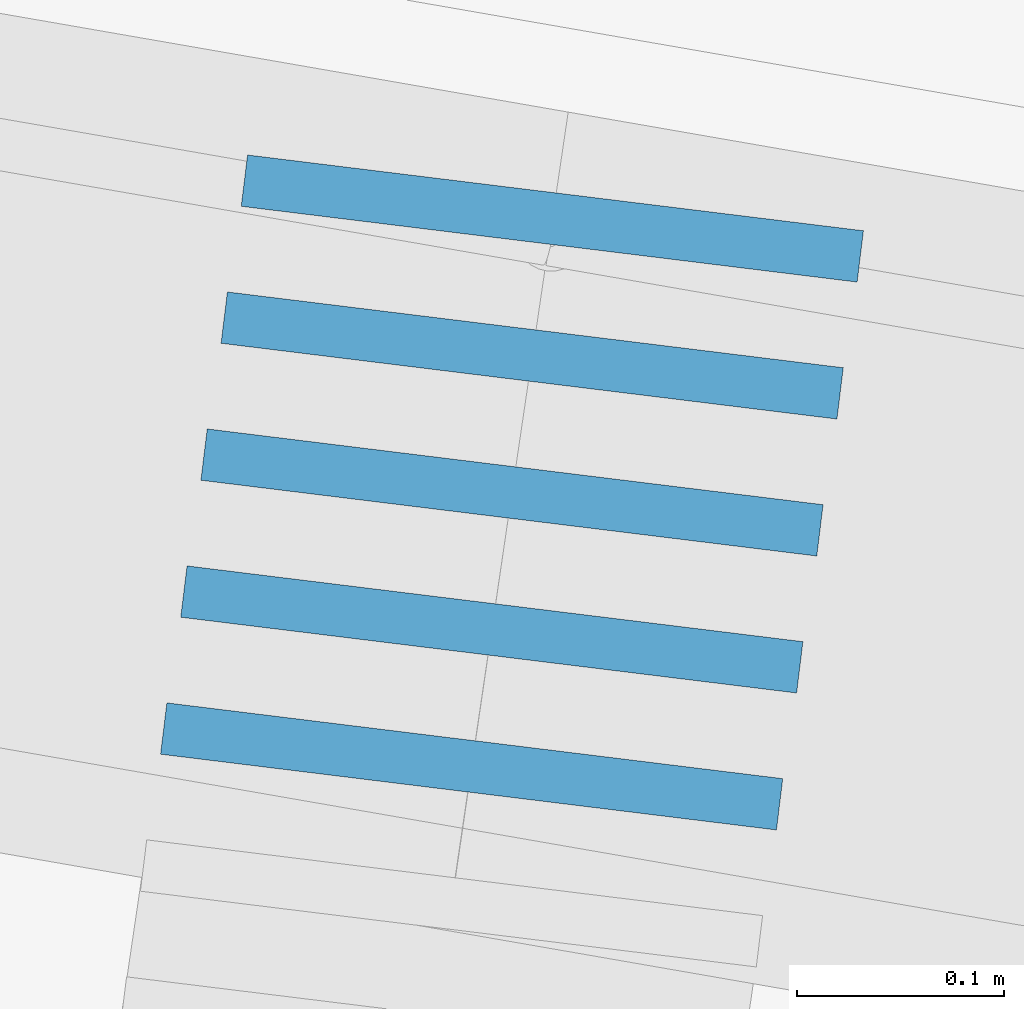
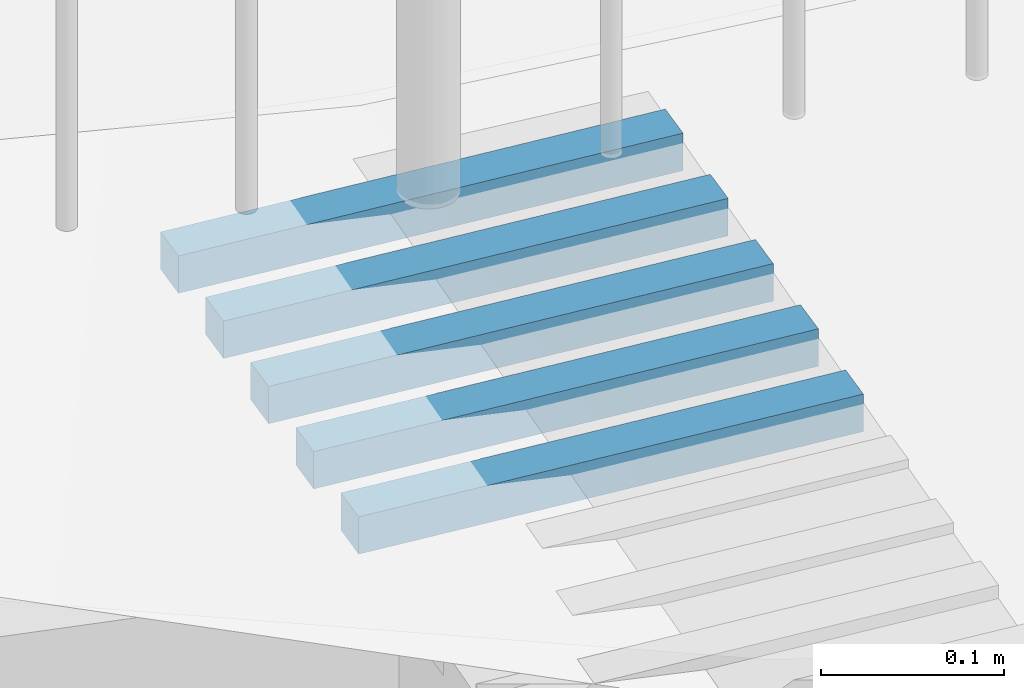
# Not in any storey, part 3 of 45: 5 members.
"""IFC4 model written with IfcOpenShell, lengths in metres."""

import ifcopenshell
import ifcopenshell.guid

model = None  # the IFC model being written
_history = None  # IfcOwnerHistory: only IFC2X3 demands one
_inside = {}  # id of a spatial element -> (the spatial element, [elements in it])
_under = {}  # id of a project, library or spatial element -> (it, [spatial elements below it])
_declared = {}  # id of a project -> (the project, [libraries it declares])
_typed = {}  # id of a type object -> (the type object, [elements of that type])
_made_of = {}  # id of a material, layer set ... -> (it, [elements and type objects made of it])


def new_model(schema):
    """Start an empty IFC model of exactly this schema.

    Asked for "IFC4X3", IfcOpenShell would pick the latest addendum, in which some entities
    have other attributes; the version numbers below select the first issue.
    IFC2X3 requires an IfcOwnerHistory on every rooted entity: one is made here for all.
    """
    global model, _history
    if schema == "IFC4X3":
        model = ifcopenshell.file(schema_version=(4, 3, 0, 0))
    else:
        model = ifcopenshell.file(schema=schema)
    _inside.clear()
    _under.clear()
    _declared.clear()
    _typed.clear()
    _made_of.clear()
    _history = None
    if model.schema == "IFC2X3":
        org = make("IfcOrganization", Name="unknown")
        user = make(
            "IfcPersonAndOrganization",
            ThePerson=make("IfcPerson", FamilyName="unknown"),
            TheOrganization=org,
        )
        app = make(
            "IfcApplication",
            ApplicationDeveloper=org,
            Version="unknown",
            ApplicationFullName="unknown",
            ApplicationIdentifier="unknown",
        )
        _history = make(
            "IfcOwnerHistory",
            OwningUser=user,
            OwningApplication=app,
            ChangeAction="ADDED",
            CreationDate=0,
        )
    return model


def make(cls, **values):
    """One entity of the class cls with the attributes given. An attribute that is None is left unset."""
    return model.create_entity(
        cls, **{name: value for name, value in values.items() if value is not None}
    )


def rooted(cls, **values):
    """An entity with a GlobalId (a new one), such as an element, a storey or a relation."""
    return make(cls, GlobalId=ifcopenshell.guid.new(), OwnerHistory=_history, **values)


def si_unit(unit_type, name, prefix=None):
    """IfcSIUnit, for example si_unit("LENGTHUNIT", "METRE", prefix="MILLI")."""
    return make("IfcSIUnit", UnitType=unit_type, Prefix=prefix, Name=name)


def assignment(units):
    """IfcUnitAssignment: the units of a project."""
    return None if units is None else make("IfcUnitAssignment", Units=units)


def point(xyz):
    """IfcCartesianPoint."""
    return None if xyz is None else make("IfcCartesianPoint", Coordinates=xyz)


def direction(xyz):
    """IfcDirection."""
    return None if xyz is None else make("IfcDirection", DirectionRatios=xyz)


def frame(location, z_axis=None, x_axis=None):
    """IfcAxis2Placement3D, a coordinate frame: its origin and axes. An axis left out is left unset."""
    return make(
        "IfcAxis2Placement3D",
        Location=point(location),
        Axis=direction(z_axis),
        RefDirection=direction(x_axis),
    )


def origin_with_axes():
    """The frame at (0, 0, 0) with the z axis (0, 0, 1) and the x axis (1, 0, 0) written out."""
    return frame((0.0, 0.0, 0.0), z_axis=(0.0, 0.0, 1.0), x_axis=(1.0, 0.0, 0.0))


def place(relative_to, where):
    """IfcLocalPlacement: puts the frame where relative to a parent placement (None: the world)."""
    return make(
        "IfcLocalPlacement", PlacementRelTo=relative_to, RelativePlacement=where
    )


def context(
    kind, dimensions, precision=None, world=None, true_north=None, identifier=None
):
    """IfcGeometricRepresentationContext, for example the 3D "Model" context."""
    return make(
        "IfcGeometricRepresentationContext",
        ContextIdentifier=identifier,
        ContextType=kind,
        CoordinateSpaceDimension=dimensions,
        Precision=precision,
        WorldCoordinateSystem=world,
        TrueNorth=true_north,
    )


def subcontext(parent, identifier, kind, view, scale=None):
    """IfcGeometricRepresentationSubContext, for example "Body" below "Model"."""
    return make(
        "IfcGeometricRepresentationSubContext",
        ContextIdentifier=identifier,
        ContextType=kind,
        ParentContext=parent,
        TargetScale=scale,
        TargetView=view,
    )


def project(units=None, contexts=None):
    """IfcProject with its units and contexts."""
    return rooted(
        "IfcProject",
        Name="project",
        RepresentationContexts=contexts,
        UnitsInContext=assignment(units),
    )


def spatial(cls, under=None, at=None, **own):
    """A site, building, storey or space (cls), placed at a placement, below another one or the project."""
    s = rooted(cls, ObjectPlacement=at, **own)
    if under is not None:
        _under.setdefault(under.id(), (under, []))[1].append(s)
    return s


def profile(cls, at=None, kind="AREA", **sizes):
    """A parametric profile (cls). Its sizes go by their IFC names, for example OverallWidth=200.0."""
    return make(cls, ProfileType=kind, Position=at, **sizes)


def rectangle(**sizes):
    """IfcRectangleProfileDef."""
    return profile("IfcRectangleProfileDef", **sizes)


def extrude(swept, where, along, depth):
    """IfcExtrudedAreaSolid: the profile swept, set in the frame where, extruded along a direction by depth."""
    return make(
        "IfcExtrudedAreaSolid",
        SweptArea=swept,
        Position=where,
        ExtrudedDirection=direction(along),
        Depth=depth,
    )


def shape(context_of_items, identifier, shape_type, items):
    """IfcShapeRepresentation: the items that make up one representation, for example the "Body"."""
    return make(
        "IfcShapeRepresentation",
        ContextOfItems=context_of_items,
        RepresentationIdentifier=identifier,
        RepresentationType=shape_type,
        Items=items,
    )


def material(Name=None, Category=None):
    """IfcMaterial."""
    return make("IfcMaterial", Name=Name, Category=Category)


def material_profile(
    of_material, cross_section, Name=None, Category=None, Priority=None
):
    """IfcMaterialProfile: a cross section and its material."""
    return make(
        "IfcMaterialProfile",
        Name=Name,
        Material=of_material,
        Profile=cross_section,
        Priority=Priority,
        Category=Category,
    )


def profile_set(profiles, Name=None, composite=None):
    """IfcMaterialProfileSet."""
    return make(
        "IfcMaterialProfileSet",
        Name=Name,
        MaterialProfiles=profiles,
        CompositeProfile=composite,
    )


def profile_usage(for_profile_set, cardinal=None, extent=None):
    """IfcMaterialProfileSetUsage: how a profile set lies along its element."""
    return make(
        "IfcMaterialProfileSetUsage",
        ForProfileSet=for_profile_set,
        CardinalPoint=cardinal,
        ReferenceExtent=extent,
    )


def made_of(thing, what):
    """Note that an element or type object is made of a material, layer set ...; save() writes the relation."""
    if what is not None:
        _made_of.setdefault(what.id(), (what, []))[1].append(thing)
    return thing


def type_object(cls, material=None, **own):
    """A type object (cls), such as IfcWallType, which elements share."""
    return made_of(rooted(cls, **own), material)


def element(
    cls,
    number,
    at=None,
    inside=None,
    cuts=None,
    type_object=None,
    material=None,
    context=None,
    identifier="Body",
    shape_type=None,
    held_by="IfcProductDefinitionShape",
    body=None,
    shapes=None,
    **own,
):
    """One element of the class cls, such as IfcWall. Its Tag is "e" and its number.

    at: its placement. inside: the storey or other place that contains it. cuts: it is an
    opening in that element (IfcRelVoidsElement). A single representation is given by context,
    identifier, shape_type and body (its items); several are given by shapes. held_by: the class
    of the entity that holds the representations. save() writes the other relations.
    """
    e = rooted(cls, Tag="e%d" % number, ObjectPlacement=at, **own)
    if body is not None:
        shapes = [shape(context, identifier, shape_type, body)]
    if shapes is not None:
        e.Representation = make(held_by, Representations=shapes)
    if inside is not None:
        _inside.setdefault(inside.id(), (inside, []))[1].append(e)
    if cuts is not None:
        rooted(
            "IfcRelVoidsElement", RelatingBuildingElement=cuts, RelatedOpeningElement=e
        )
    if type_object is not None:
        _typed.setdefault(type_object.id(), (type_object, []))[1].append(e)
    return made_of(e, material)


def aggregate(whole, parts):
    """IfcRelAggregates: a whole, such as a stair, and the parts it consists of."""
    return rooted("IfcRelAggregates", RelatingObject=whole, RelatedObjects=parts)


def save(model, path):
    """Write the relations noted so far, then the file.

    IfcRelAggregates (storeys below a building ...), IfcRelContainedInSpatialStructure (elements
    in a storey), IfcRelDefinesByType, IfcRelAssociatesMaterial and IfcRelDeclares: one each for
    every whole, place, type object, material and project.
    """
    for whole, parts in _under.values():
        aggregate(whole, parts)
    for where, things in _inside.values():
        rooted(
            "IfcRelContainedInSpatialStructure",
            RelatedElements=things,
            RelatingStructure=where,
        )
    for kind, things in _typed.values():
        rooted("IfcRelDefinesByType", RelatedObjects=things, RelatingType=kind)
    for what, things in _made_of.values():
        rooted("IfcRelAssociatesMaterial", RelatedObjects=things, RelatingMaterial=what)
    for by, libraries in _declared.values():
        rooted("IfcRelDeclares", RelatingContext=by, RelatedDefinitions=libraries)
    model.write(path)


model = new_model("IFC4")

# Units and contexts
model_context = context("Model", 3, precision=1e-05, world=origin_with_axes(), true_north=direction((0.0, 1.0)))
body_context = subcontext(model_context, "Body", "Model", "MODEL_VIEW")
ifc_project = project(units=[si_unit("VOLUMEUNIT", "CUBIC_METRE"), si_unit("LENGTHUNIT", "METRE"), si_unit("AREAUNIT", "SQUARE_METRE")], contexts=[model_context])

# Site
site_placement = place(None, origin_with_axes())
site = spatial("IfcSite", under=ifc_project, at=site_placement, Name="Lares · Rua das Mercês · artigo 4771")

# Members
ifc_material = material(Name="Aço galvanizado / Stahl verzinkt", Category="steel")
ifc_material_profile = material_profile(ifc_material, rectangle(XDim=0.025, YDim=0.025))
ifc_profile_set = profile_set([ifc_material_profile], Name="R0.025")
ifc_profile_usage_1 = profile_usage(ifc_profile_set)
member_type = type_object("IfcMemberType", Name="R0.025 / galvanized", PredefinedType="NOTDEFINED", material=ifc_profile_set)
member_1_placement = place(site_placement, frame((49.6684197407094, 11.02953917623, 15.4829738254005), z_axis=(0.992517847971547, -0.12209963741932, 0.0), x_axis=(-0.12209963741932, -0.992517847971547, 0.0)))
element("IfcMember", 1, at=member_1_placement, inside=site, type_object=member_type, material=ifc_profile_usage_1, Name="Interceção · grelha estacionamento", context=body_context, shape_type="SweptSolid", body=[
    extrude(rectangle(XDim=0.025, YDim=0.025), origin_with_axes(), (0.0, 0.0, 1.0), 0.300000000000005),
])
ifc_profile_usage_2 = profile_usage(ifc_profile_set)
member_2_placement = place(site_placement, frame((49.6781709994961, 11.0957623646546, 15.4829738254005), z_axis=(0.992517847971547, -0.12209963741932, 0.0), x_axis=(-0.12209963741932, -0.992517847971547, 0.0)))
element("IfcMember", 2, at=member_2_placement, inside=site, type_object=member_type, material=ifc_profile_usage_2, Name="Interceção · grelha estacionamento", context=body_context, shape_type="SweptSolid", body=[
    extrude(rectangle(XDim=0.025, YDim=0.025), origin_with_axes(), (0.0, 0.0, 1.0), 0.300000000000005),
])
ifc_profile_usage_3 = profile_usage(ifc_profile_set)
member_3_placement = place(site_placement, frame((49.687922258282, 11.1619855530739, 15.4829738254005), z_axis=(0.992517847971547, -0.12209963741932, 0.0), x_axis=(-0.12209963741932, -0.992517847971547, 0.0)))
element("IfcMember", 3, at=member_3_placement, inside=site, type_object=member_type, material=ifc_profile_usage_3, Name="Interceção · grelha estacionamento", context=body_context, shape_type="SweptSolid", body=[
    extrude(rectangle(XDim=0.025, YDim=0.025), origin_with_axes(), (0.0, 0.0, 1.0), 0.300000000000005),
])
ifc_profile_usage_4 = profile_usage(ifc_profile_set)
member_4_placement = place(site_placement, frame((49.697673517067, 11.2282087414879, 15.4829738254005), z_axis=(0.992517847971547, -0.12209963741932, 0.0), x_axis=(-0.12209963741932, -0.992517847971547, 0.0)))
element("IfcMember", 4, at=member_4_placement, inside=site, type_object=member_type, material=ifc_profile_usage_4, Name="Interceção · grelha estacionamento", context=body_context, shape_type="SweptSolid", body=[
    extrude(rectangle(XDim=0.025, YDim=0.025), origin_with_axes(), (0.0, 0.0, 1.0), 0.300000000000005),
])
ifc_profile_usage_5 = profile_usage(ifc_profile_set)
member_5_placement = place(site_placement, frame((49.7074247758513, 11.2944319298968, 15.4829738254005), z_axis=(0.992517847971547, -0.12209963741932, 0.0), x_axis=(-0.12209963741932, -0.992517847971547, 0.0)))
element("IfcMember", 5, at=member_5_placement, inside=site, type_object=member_type, material=ifc_profile_usage_5, Name="Interceção · grelha estacionamento", context=body_context, shape_type="SweptSolid", body=[
    extrude(rectangle(XDim=0.025, YDim=0.025), origin_with_axes(), (0.0, 0.0, 1.0), 0.300000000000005),
])

save(model, "model.ifc")
